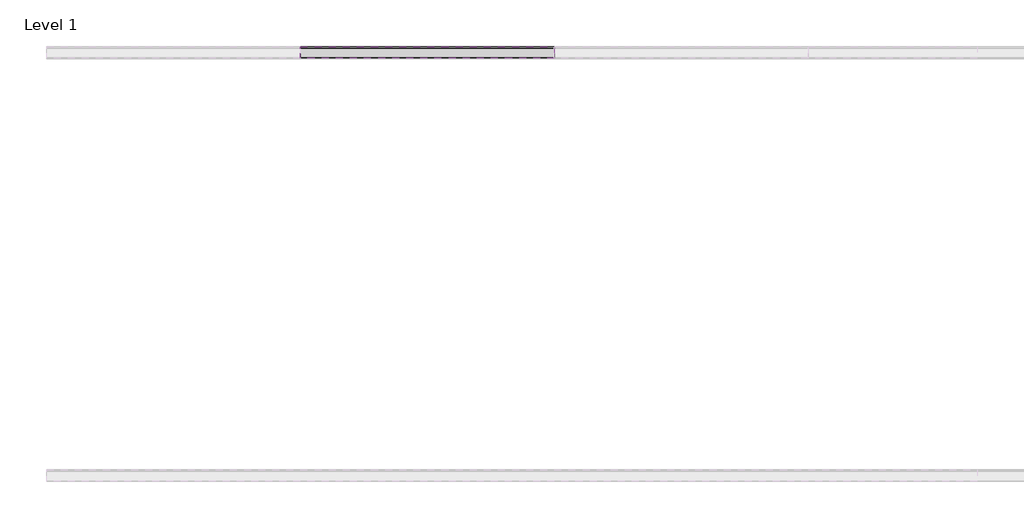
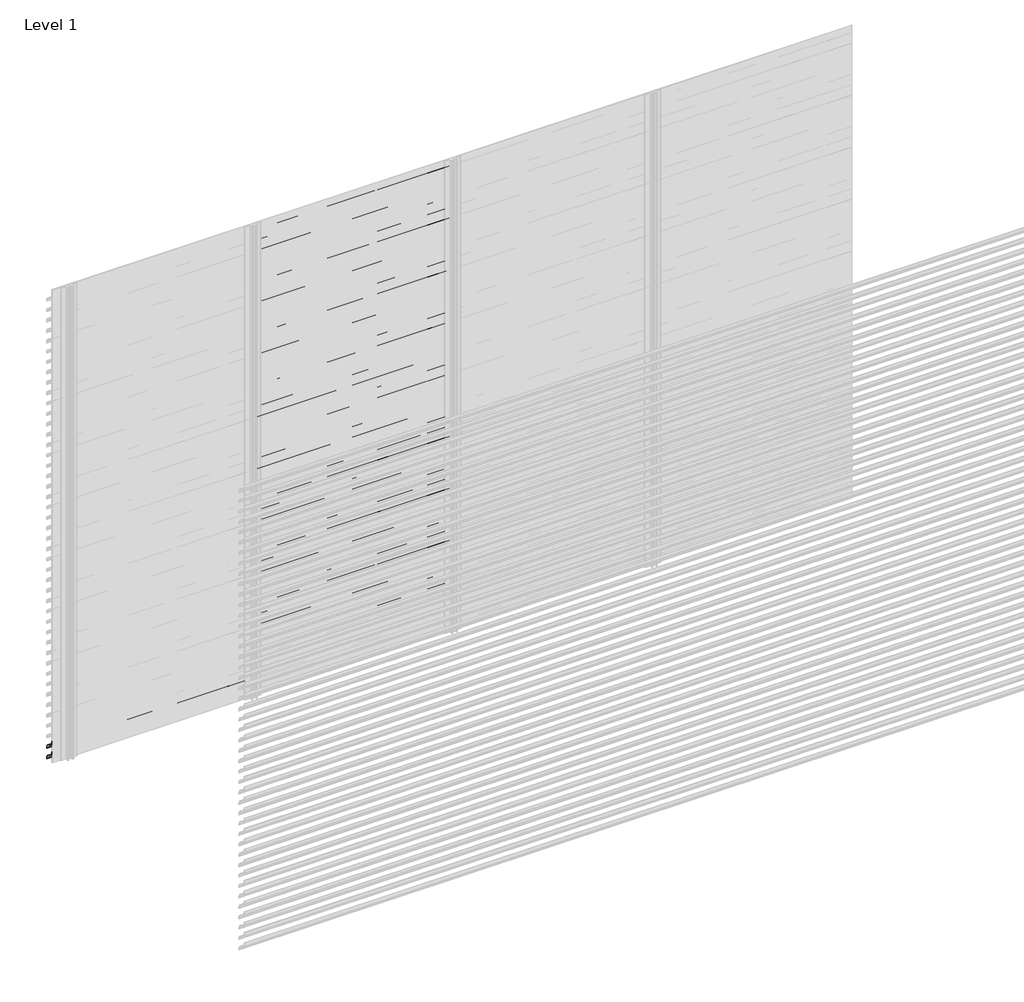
# One storey, part 119 of 540: 43 proxies.
"""IFC4 building model written with IfcOpenShell, lengths in millimetres."""

from ifc_helpers import new_model, si_unit, point, frame, frame_2d, origin, place, context, project, spatial, polyline, circle_curve, trimmed, segment, composite_curve, outline, extrude, element, save

model = new_model("IFC4")

# Units and contexts
model_context = context("Model", 3, world=origin())
ifc_project = project(units=[si_unit("LENGTHUNIT", "METRE", prefix="MILLI")], contexts=[model_context])

# Site, building, storey
site = spatial("IfcSite", under=ifc_project)
building = spatial("IfcBuilding", under=site)
storey = spatial("IfcBuildingStorey", under=building, Name="Level 1", Elevation=0.0)

# Proxies
placement = place(None, origin())
element("IfcBuildingElementProxy", 1, Name="Wall Sweeps", at=placement, inside=storey, context=model_context, shape_type="SweptSolid", body=[
    extrude(outline(composite_curve([segment(trimmed(circle_curve(frame_2d((7017.5825412, 61.7676769)), 26.4944656), [point((7034.5447587, 82.1205608))], [point((7044.0270068, 63.3946208))], False, "CARTESIAN"), True, "CONTINUOUS"), segment(polyline([(7044.0270068, 63.3946208), (7044.0270068, 55.5), (7042.7770068, 56.2216933), (7042.7770068, 61.7676769)]), True, "CONTINUOUS"), segment(trimmed(circle_curve(frame_2d((7017.5825412, 61.7676769)), 25.1944656), [point((7042.7770068, 61.7676769))], [point((7033.7545017, 81.086807))], True, "CARTESIAN"), True, "CONTINUOUS"), segment(polyline([(7033.7545017, 81.086807), (6989.0270068, 112.3158044), (6989.0270068, 132.0), (6990.2770068, 132.0), (6990.2770068, 113.0285629), (7034.5447587, 82.1205608)]), True, "CONTINUOUS")], self_intersect=False)), frame((89466.6208097, 0.0, 0.0), z_axis=(1.0, 0.0, 0.0), x_axis=(0.0, 1.0, 0.0)), (0.0, 0.0, 1.0), 1200.0000002),
])
element("IfcBuildingElementProxy", 2, Name="Wall Sweeps", at=placement, inside=storey, context=model_context, shape_type="SweptSolid", body=[
    extrude(outline(composite_curve([segment(trimmed(circle_curve(frame_2d((7017.5825412, -4.2323231)), 26.4944656), [point((7034.5447587, 16.1205608))], [point((7044.0270068, -2.6053792))], False, "CARTESIAN"), True, "CONTINUOUS"), segment(polyline([(7044.0270068, -2.6053792), (7044.0270068, -10.5), (7042.7770068, -9.7783067), (7042.7770068, -4.2323231)]), True, "CONTINUOUS"), segment(trimmed(circle_curve(frame_2d((7017.5825412, -4.2323231)), 25.1944656), [point((7042.7770068, -4.2323231))], [point((7033.7545017, 15.086807))], True, "CARTESIAN"), True, "CONTINUOUS"), segment(polyline([(7033.7545017, 15.086807), (6989.0270068, 46.3158044), (6989.0270068, 66.0), (6990.2770068, 66.0), (6990.2770068, 47.0285629), (7034.5447587, 16.1205608)]), True, "CONTINUOUS")], self_intersect=False)), frame((89466.6208097, 0.0, 0.0), z_axis=(1.0, 0.0, 0.0), x_axis=(0.0, 1.0, 0.0)), (0.0, 0.0, 1.0), 1200.0000002),
])
element("IfcBuildingElementProxy", 3, Name="Wall Sweeps", at=placement, inside=storey, context=model_context, shape_type="SweptSolid", body=[
    extrude(outline(composite_curve([segment(trimmed(circle_curve(frame_2d((7017.5825412, 2899.7676769)), 26.4944656), [point((7034.5447587, 2920.1205608))], [point((7044.0270068, 2901.3946208))], False, "CARTESIAN"), True, "CONTINUOUS"), segment(polyline([(7044.0270068, 2901.3946208), (7044.0270068, 2893.5), (7042.7770068, 2894.2216933), (7042.7770068, 2899.7676769)]), True, "CONTINUOUS"), segment(trimmed(circle_curve(frame_2d((7017.5825412, 2899.7676769)), 25.1944656), [point((7042.7770068, 2899.7676769))], [point((7033.7545017, 2919.086807))], True, "CARTESIAN"), True, "CONTINUOUS"), segment(polyline([(7033.7545017, 2919.086807), (6989.0270068, 2950.3158044), (6989.0270068, 2970.0), (6990.2770068, 2970.0), (6990.2770068, 2951.0285629), (7034.5447587, 2920.1205608)]), True, "CONTINUOUS")], self_intersect=False)), frame((90666.6208099, 0.0, 0.0), z_axis=(1.0, 0.0, 0.0), x_axis=(0.0, 1.0, 0.0)), (0.0, 0.0, 1.0), 1199.9999999),
])
element("IfcBuildingElementProxy", 4, Name="Wall Sweeps", at=placement, inside=storey, context=model_context, shape_type="SweptSolid", body=[
    extrude(outline(composite_curve([segment(trimmed(circle_curve(frame_2d((7017.5825412, 2833.7676769)), 26.4944656), [point((7034.5447587, 2854.1205608))], [point((7044.0270068, 2835.3946208))], False, "CARTESIAN"), True, "CONTINUOUS"), segment(polyline([(7044.0270068, 2835.3946208), (7044.0270068, 2827.5), (7042.7770068, 2828.2216933), (7042.7770068, 2833.7676769)]), True, "CONTINUOUS"), segment(trimmed(circle_curve(frame_2d((7017.5825412, 2833.7676769)), 25.1944656), [point((7042.7770068, 2833.7676769))], [point((7033.7545017, 2853.086807))], True, "CARTESIAN"), True, "CONTINUOUS"), segment(polyline([(7033.7545017, 2853.086807), (6989.0270068, 2884.3158044), (6989.0270068, 2904.0), (6990.2770068, 2904.0), (6990.2770068, 2885.0285629), (7034.5447587, 2854.1205608)]), True, "CONTINUOUS")], self_intersect=False)), frame((90666.6208099, 0.0, 0.0), z_axis=(1.0, 0.0, 0.0), x_axis=(0.0, 1.0, 0.0)), (0.0, 0.0, 1.0), 1199.9999999),
])
element("IfcBuildingElementProxy", 5, Name="Wall Sweeps", at=placement, inside=storey, context=model_context, shape_type="SweptSolid", body=[
    extrude(outline(composite_curve([segment(trimmed(circle_curve(frame_2d((7017.5825412, 2767.7676769)), 26.4944656), [point((7034.5447587, 2788.1205608))], [point((7044.0270068, 2769.3946208))], False, "CARTESIAN"), True, "CONTINUOUS"), segment(polyline([(7044.0270068, 2769.3946208), (7044.0270068, 2761.5), (7042.7770068, 2762.2216933), (7042.7770068, 2767.7676769)]), True, "CONTINUOUS"), segment(trimmed(circle_curve(frame_2d((7017.5825412, 2767.7676769)), 25.1944656), [point((7042.7770068, 2767.7676769))], [point((7033.7545017, 2787.086807))], True, "CARTESIAN"), True, "CONTINUOUS"), segment(polyline([(7033.7545017, 2787.086807), (6989.0270068, 2818.3158044), (6989.0270068, 2838.0), (6990.2770068, 2838.0), (6990.2770068, 2819.0285629), (7034.5447587, 2788.1205608)]), True, "CONTINUOUS")], self_intersect=False)), frame((90666.6208099, 0.0, 0.0), z_axis=(1.0, 0.0, 0.0), x_axis=(0.0, 1.0, 0.0)), (0.0, 0.0, 1.0), 1199.9999999),
])
element("IfcBuildingElementProxy", 6, Name="Wall Sweeps", at=placement, inside=storey, context=model_context, shape_type="SweptSolid", body=[
    extrude(outline(composite_curve([segment(trimmed(circle_curve(frame_2d((7017.5825412, 2701.7676769)), 26.4944656), [point((7034.5447587, 2722.1205608))], [point((7044.0270068, 2703.3946208))], False, "CARTESIAN"), True, "CONTINUOUS"), segment(polyline([(7044.0270068, 2703.3946208), (7044.0270068, 2695.5), (7042.7770068, 2696.2216933), (7042.7770068, 2701.7676769)]), True, "CONTINUOUS"), segment(trimmed(circle_curve(frame_2d((7017.5825412, 2701.7676769)), 25.1944656), [point((7042.7770068, 2701.7676769))], [point((7033.7545017, 2721.086807))], True, "CARTESIAN"), True, "CONTINUOUS"), segment(polyline([(7033.7545017, 2721.086807), (6989.0270068, 2752.3158044), (6989.0270068, 2772.0), (6990.2770068, 2772.0), (6990.2770068, 2753.0285629), (7034.5447587, 2722.1205608)]), True, "CONTINUOUS")], self_intersect=False)), frame((90666.6208099, 0.0, 0.0), z_axis=(1.0, 0.0, 0.0), x_axis=(0.0, 1.0, 0.0)), (0.0, 0.0, 1.0), 1199.9999999),
])
element("IfcBuildingElementProxy", 7, Name="Wall Sweeps", at=placement, inside=storey, context=model_context, shape_type="SweptSolid", body=[
    extrude(outline(composite_curve([segment(trimmed(circle_curve(frame_2d((7017.5825412, 2635.7676769)), 26.4944656), [point((7034.5447587, 2656.1205608))], [point((7044.0270068, 2637.3946208))], False, "CARTESIAN"), True, "CONTINUOUS"), segment(polyline([(7044.0270068, 2637.3946208), (7044.0270068, 2629.5), (7042.7770068, 2630.2216933), (7042.7770068, 2635.7676769)]), True, "CONTINUOUS"), segment(trimmed(circle_curve(frame_2d((7017.5825412, 2635.7676769)), 25.1944656), [point((7042.7770068, 2635.7676769))], [point((7033.7545017, 2655.086807))], True, "CARTESIAN"), True, "CONTINUOUS"), segment(polyline([(7033.7545017, 2655.086807), (6989.0270068, 2686.3158044), (6989.0270068, 2706.0), (6990.2770068, 2706.0), (6990.2770068, 2687.0285629), (7034.5447587, 2656.1205608)]), True, "CONTINUOUS")], self_intersect=False)), frame((90666.6208099, 0.0, 0.0), z_axis=(1.0, 0.0, 0.0), x_axis=(0.0, 1.0, 0.0)), (0.0, 0.0, 1.0), 1199.9999999),
])
element("IfcBuildingElementProxy", 8, Name="Wall Sweeps", at=placement, inside=storey, context=model_context, shape_type="SweptSolid", body=[
    extrude(outline(composite_curve([segment(trimmed(circle_curve(frame_2d((7017.5825412, 2569.7676769)), 26.4944656), [point((7034.5447587, 2590.1205608))], [point((7044.0270068, 2571.3946208))], False, "CARTESIAN"), True, "CONTINUOUS"), segment(polyline([(7044.0270068, 2571.3946208), (7044.0270068, 2563.5), (7042.7770068, 2564.2216933), (7042.7770068, 2569.7676769)]), True, "CONTINUOUS"), segment(trimmed(circle_curve(frame_2d((7017.5825412, 2569.7676769)), 25.1944656), [point((7042.7770068, 2569.7676769))], [point((7033.7545017, 2589.086807))], True, "CARTESIAN"), True, "CONTINUOUS"), segment(polyline([(7033.7545017, 2589.086807), (6989.0270068, 2620.3158044), (6989.0270068, 2640.0), (6990.2770068, 2640.0), (6990.2770068, 2621.0285629), (7034.5447587, 2590.1205608)]), True, "CONTINUOUS")], self_intersect=False)), frame((90666.6208099, 0.0, 0.0), z_axis=(1.0, 0.0, 0.0), x_axis=(0.0, 1.0, 0.0)), (0.0, 0.0, 1.0), 1199.9999999),
])
element("IfcBuildingElementProxy", 9, Name="Wall Sweeps", at=placement, inside=storey, context=model_context, shape_type="SweptSolid", body=[
    extrude(outline(composite_curve([segment(trimmed(circle_curve(frame_2d((7017.5825412, 2503.7676769)), 26.4944656), [point((7034.5447587, 2524.1205608))], [point((7044.0270068, 2505.3946208))], False, "CARTESIAN"), True, "CONTINUOUS"), segment(polyline([(7044.0270068, 2505.3946208), (7044.0270068, 2497.5), (7042.7770068, 2498.2216933), (7042.7770068, 2503.7676769)]), True, "CONTINUOUS"), segment(trimmed(circle_curve(frame_2d((7017.5825412, 2503.7676769)), 25.1944656), [point((7042.7770068, 2503.7676769))], [point((7033.7545017, 2523.086807))], True, "CARTESIAN"), True, "CONTINUOUS"), segment(polyline([(7033.7545017, 2523.086807), (6989.0270068, 2554.3158044), (6989.0270068, 2574.0), (6990.2770068, 2574.0), (6990.2770068, 2555.0285629), (7034.5447587, 2524.1205608)]), True, "CONTINUOUS")], self_intersect=False)), frame((90666.6208099, 0.0, 0.0), z_axis=(1.0, 0.0, 0.0), x_axis=(0.0, 1.0, 0.0)), (0.0, 0.0, 1.0), 1199.9999999),
])
element("IfcBuildingElementProxy", 10, Name="Wall Sweeps", at=placement, inside=storey, context=model_context, shape_type="SweptSolid", body=[
    extrude(outline(composite_curve([segment(trimmed(circle_curve(frame_2d((7017.5825412, 2437.7676769)), 26.4944656), [point((7034.5447587, 2458.1205608))], [point((7044.0270068, 2439.3946208))], False, "CARTESIAN"), True, "CONTINUOUS"), segment(polyline([(7044.0270068, 2439.3946208), (7044.0270068, 2431.5), (7042.7770068, 2432.2216933), (7042.7770068, 2437.7676769)]), True, "CONTINUOUS"), segment(trimmed(circle_curve(frame_2d((7017.5825412, 2437.7676769)), 25.1944656), [point((7042.7770068, 2437.7676769))], [point((7033.7545017, 2457.086807))], True, "CARTESIAN"), True, "CONTINUOUS"), segment(polyline([(7033.7545017, 2457.086807), (6989.0270068, 2488.3158044), (6989.0270068, 2508.0), (6990.2770068, 2508.0), (6990.2770068, 2489.0285629), (7034.5447587, 2458.1205608)]), True, "CONTINUOUS")], self_intersect=False)), frame((90666.6208099, 0.0, 0.0), z_axis=(1.0, 0.0, 0.0), x_axis=(0.0, 1.0, 0.0)), (0.0, 0.0, 1.0), 1199.9999999),
])
element("IfcBuildingElementProxy", 11, Name="Wall Sweeps", at=placement, inside=storey, context=model_context, shape_type="SweptSolid", body=[
    extrude(outline(composite_curve([segment(trimmed(circle_curve(frame_2d((7017.5825412, 2371.7676769)), 26.4944656), [point((7034.5447587, 2392.1205608))], [point((7044.0270068, 2373.3946208))], False, "CARTESIAN"), True, "CONTINUOUS"), segment(polyline([(7044.0270068, 2373.3946208), (7044.0270068, 2365.5), (7042.7770068, 2366.2216933), (7042.7770068, 2371.7676769)]), True, "CONTINUOUS"), segment(trimmed(circle_curve(frame_2d((7017.5825412, 2371.7676769)), 25.1944656), [point((7042.7770068, 2371.7676769))], [point((7033.7545017, 2391.086807))], True, "CARTESIAN"), True, "CONTINUOUS"), segment(polyline([(7033.7545017, 2391.086807), (6989.0270068, 2422.3158044), (6989.0270068, 2442.0), (6990.2770068, 2442.0), (6990.2770068, 2423.0285629), (7034.5447587, 2392.1205608)]), True, "CONTINUOUS")], self_intersect=False)), frame((90666.6208099, 0.0, 0.0), z_axis=(1.0, 0.0, 0.0), x_axis=(0.0, 1.0, 0.0)), (0.0, 0.0, 1.0), 1199.9999999),
])
element("IfcBuildingElementProxy", 12, Name="Wall Sweeps", at=placement, inside=storey, context=model_context, shape_type="SweptSolid", body=[
    extrude(outline(composite_curve([segment(trimmed(circle_curve(frame_2d((7017.5825412, 2305.7676769)), 26.4944656), [point((7034.5447587, 2326.1205608))], [point((7044.0270068, 2307.3946208))], False, "CARTESIAN"), True, "CONTINUOUS"), segment(polyline([(7044.0270068, 2307.3946208), (7044.0270068, 2299.5), (7042.7770068, 2300.2216933), (7042.7770068, 2305.7676769)]), True, "CONTINUOUS"), segment(trimmed(circle_curve(frame_2d((7017.5825412, 2305.7676769)), 25.1944656), [point((7042.7770068, 2305.7676769))], [point((7033.7545017, 2325.086807))], True, "CARTESIAN"), True, "CONTINUOUS"), segment(polyline([(7033.7545017, 2325.086807), (6989.0270068, 2356.3158044), (6989.0270068, 2376.0), (6990.2770068, 2376.0), (6990.2770068, 2357.0285629), (7034.5447587, 2326.1205608)]), True, "CONTINUOUS")], self_intersect=False)), frame((90666.6208099, 0.0, 0.0), z_axis=(1.0, 0.0, 0.0), x_axis=(0.0, 1.0, 0.0)), (0.0, 0.0, 1.0), 1199.9999999),
])
element("IfcBuildingElementProxy", 13, Name="Wall Sweeps", at=placement, inside=storey, context=model_context, shape_type="SweptSolid", body=[
    extrude(outline(composite_curve([segment(trimmed(circle_curve(frame_2d((7017.5825412, 2239.7676769)), 26.4944656), [point((7034.5447587, 2260.1205608))], [point((7044.0270068, 2241.3946208))], False, "CARTESIAN"), True, "CONTINUOUS"), segment(polyline([(7044.0270068, 2241.3946208), (7044.0270068, 2233.5), (7042.7770068, 2234.2216933), (7042.7770068, 2239.7676769)]), True, "CONTINUOUS"), segment(trimmed(circle_curve(frame_2d((7017.5825412, 2239.7676769)), 25.1944656), [point((7042.7770068, 2239.7676769))], [point((7033.7545017, 2259.086807))], True, "CARTESIAN"), True, "CONTINUOUS"), segment(polyline([(7033.7545017, 2259.086807), (6989.0270068, 2290.3158044), (6989.0270068, 2310.0), (6990.2770068, 2310.0), (6990.2770068, 2291.0285629), (7034.5447587, 2260.1205608)]), True, "CONTINUOUS")], self_intersect=False)), frame((90666.6208099, 0.0, 0.0), z_axis=(1.0, 0.0, 0.0), x_axis=(0.0, 1.0, 0.0)), (0.0, 0.0, 1.0), 1199.9999999),
])
element("IfcBuildingElementProxy", 14, Name="Wall Sweeps", at=placement, inside=storey, context=model_context, shape_type="SweptSolid", body=[
    extrude(outline(composite_curve([segment(trimmed(circle_curve(frame_2d((7017.5825412, 2173.7676769)), 26.4944656), [point((7034.5447587, 2194.1205608))], [point((7044.0270068, 2175.3946208))], False, "CARTESIAN"), True, "CONTINUOUS"), segment(polyline([(7044.0270068, 2175.3946208), (7044.0270068, 2167.5), (7042.7770068, 2168.2216933), (7042.7770068, 2173.7676769)]), True, "CONTINUOUS"), segment(trimmed(circle_curve(frame_2d((7017.5825412, 2173.7676769)), 25.1944656), [point((7042.7770068, 2173.7676769))], [point((7033.7545017, 2193.086807))], True, "CARTESIAN"), True, "CONTINUOUS"), segment(polyline([(7033.7545017, 2193.086807), (6989.0270068, 2224.3158044), (6989.0270068, 2244.0), (6990.2770068, 2244.0), (6990.2770068, 2225.0285629), (7034.5447587, 2194.1205608)]), True, "CONTINUOUS")], self_intersect=False)), frame((90666.6208099, 0.0, 0.0), z_axis=(1.0, 0.0, 0.0), x_axis=(0.0, 1.0, 0.0)), (0.0, 0.0, 1.0), 1199.9999999),
])
element("IfcBuildingElementProxy", 15, Name="Wall Sweeps", at=placement, inside=storey, context=model_context, shape_type="SweptSolid", body=[
    extrude(outline(composite_curve([segment(trimmed(circle_curve(frame_2d((7017.5825412, 2107.7676769)), 26.4944656), [point((7034.5447587, 2128.1205608))], [point((7044.0270068, 2109.3946208))], False, "CARTESIAN"), True, "CONTINUOUS"), segment(polyline([(7044.0270068, 2109.3946208), (7044.0270068, 2101.5), (7042.7770068, 2102.2216933), (7042.7770068, 2107.7676769)]), True, "CONTINUOUS"), segment(trimmed(circle_curve(frame_2d((7017.5825412, 2107.7676769)), 25.1944656), [point((7042.7770068, 2107.7676769))], [point((7033.7545017, 2127.086807))], True, "CARTESIAN"), True, "CONTINUOUS"), segment(polyline([(7033.7545017, 2127.086807), (6989.0270068, 2158.3158044), (6989.0270068, 2178.0), (6990.2770068, 2178.0), (6990.2770068, 2159.0285629), (7034.5447587, 2128.1205608)]), True, "CONTINUOUS")], self_intersect=False)), frame((90666.6208099, 0.0, 0.0), z_axis=(1.0, 0.0, 0.0), x_axis=(0.0, 1.0, 0.0)), (0.0, 0.0, 1.0), 1199.9999999),
])
element("IfcBuildingElementProxy", 16, Name="Wall Sweeps", at=placement, inside=storey, context=model_context, shape_type="SweptSolid", body=[
    extrude(outline(composite_curve([segment(trimmed(circle_curve(frame_2d((7017.5825412, 2041.7676769)), 26.4944656), [point((7034.5447587, 2062.1205608))], [point((7044.0270068, 2043.3946208))], False, "CARTESIAN"), True, "CONTINUOUS"), segment(polyline([(7044.0270068, 2043.3946208), (7044.0270068, 2035.5), (7042.7770068, 2036.2216933), (7042.7770068, 2041.7676769)]), True, "CONTINUOUS"), segment(trimmed(circle_curve(frame_2d((7017.5825412, 2041.7676769)), 25.1944656), [point((7042.7770068, 2041.7676769))], [point((7033.7545017, 2061.086807))], True, "CARTESIAN"), True, "CONTINUOUS"), segment(polyline([(7033.7545017, 2061.086807), (6989.0270068, 2092.3158044), (6989.0270068, 2112.0), (6990.2770068, 2112.0), (6990.2770068, 2093.0285629), (7034.5447587, 2062.1205608)]), True, "CONTINUOUS")], self_intersect=False)), frame((90666.6208099, 0.0, 0.0), z_axis=(1.0, 0.0, 0.0), x_axis=(0.0, 1.0, 0.0)), (0.0, 0.0, 1.0), 1199.9999999),
])
element("IfcBuildingElementProxy", 17, Name="Wall Sweeps", at=placement, inside=storey, context=model_context, shape_type="SweptSolid", body=[
    extrude(outline(composite_curve([segment(trimmed(circle_curve(frame_2d((7017.5825412, 1975.7676769)), 26.4944656), [point((7034.5447587, 1996.1205608))], [point((7044.0270068, 1977.3946208))], False, "CARTESIAN"), True, "CONTINUOUS"), segment(polyline([(7044.0270068, 1977.3946208), (7044.0270068, 1969.5), (7042.7770068, 1970.2216933), (7042.7770068, 1975.7676769)]), True, "CONTINUOUS"), segment(trimmed(circle_curve(frame_2d((7017.5825412, 1975.7676769)), 25.1944656), [point((7042.7770068, 1975.7676769))], [point((7033.7545017, 1995.086807))], True, "CARTESIAN"), True, "CONTINUOUS"), segment(polyline([(7033.7545017, 1995.086807), (6989.0270068, 2026.3158044), (6989.0270068, 2046.0), (6990.2770068, 2046.0), (6990.2770068, 2027.0285629), (7034.5447587, 1996.1205608)]), True, "CONTINUOUS")], self_intersect=False)), frame((90666.6208099, 0.0, 0.0), z_axis=(1.0, 0.0, 0.0), x_axis=(0.0, 1.0, 0.0)), (0.0, 0.0, 1.0), 1199.9999999),
])
element("IfcBuildingElementProxy", 18, Name="Wall Sweeps", at=placement, inside=storey, context=model_context, shape_type="SweptSolid", body=[
    extrude(outline(composite_curve([segment(trimmed(circle_curve(frame_2d((7017.5825412, 1909.7676769)), 26.4944656), [point((7034.5447587, 1930.1205608))], [point((7044.0270068, 1911.3946208))], False, "CARTESIAN"), True, "CONTINUOUS"), segment(polyline([(7044.0270068, 1911.3946208), (7044.0270068, 1903.5), (7042.7770068, 1904.2216933), (7042.7770068, 1909.7676769)]), True, "CONTINUOUS"), segment(trimmed(circle_curve(frame_2d((7017.5825412, 1909.7676769)), 25.1944656), [point((7042.7770068, 1909.7676769))], [point((7033.7545017, 1929.086807))], True, "CARTESIAN"), True, "CONTINUOUS"), segment(polyline([(7033.7545017, 1929.086807), (6989.0270068, 1960.3158044), (6989.0270068, 1980.0), (6990.2770068, 1980.0), (6990.2770068, 1961.0285629), (7034.5447587, 1930.1205608)]), True, "CONTINUOUS")], self_intersect=False)), frame((90666.6208099, 0.0, 0.0), z_axis=(1.0, 0.0, 0.0), x_axis=(0.0, 1.0, 0.0)), (0.0, 0.0, 1.0), 1199.9999999),
])
element("IfcBuildingElementProxy", 19, Name="Wall Sweeps", at=placement, inside=storey, context=model_context, shape_type="SweptSolid", body=[
    extrude(outline(composite_curve([segment(trimmed(circle_curve(frame_2d((7017.5825412, 1843.7676769)), 26.4944656), [point((7034.5447587, 1864.1205608))], [point((7044.0270068, 1845.3946208))], False, "CARTESIAN"), True, "CONTINUOUS"), segment(polyline([(7044.0270068, 1845.3946208), (7044.0270068, 1837.5), (7042.7770068, 1838.2216933), (7042.7770068, 1843.7676769)]), True, "CONTINUOUS"), segment(trimmed(circle_curve(frame_2d((7017.5825412, 1843.7676769)), 25.1944656), [point((7042.7770068, 1843.7676769))], [point((7033.7545017, 1863.086807))], True, "CARTESIAN"), True, "CONTINUOUS"), segment(polyline([(7033.7545017, 1863.086807), (6989.0270068, 1894.3158044), (6989.0270068, 1914.0), (6990.2770068, 1914.0), (6990.2770068, 1895.0285629), (7034.5447587, 1864.1205608)]), True, "CONTINUOUS")], self_intersect=False)), frame((90666.6208099, 0.0, 0.0), z_axis=(1.0, 0.0, 0.0), x_axis=(0.0, 1.0, 0.0)), (0.0, 0.0, 1.0), 1199.9999999),
])
element("IfcBuildingElementProxy", 20, Name="Wall Sweeps", at=placement, inside=storey, context=model_context, shape_type="SweptSolid", body=[
    extrude(outline(composite_curve([segment(trimmed(circle_curve(frame_2d((7017.5825412, 1777.7676769)), 26.4944656), [point((7034.5447587, 1798.1205608))], [point((7044.0270068, 1779.3946208))], False, "CARTESIAN"), True, "CONTINUOUS"), segment(polyline([(7044.0270068, 1779.3946208), (7044.0270068, 1771.5), (7042.7770068, 1772.2216933), (7042.7770068, 1777.7676769)]), True, "CONTINUOUS"), segment(trimmed(circle_curve(frame_2d((7017.5825412, 1777.7676769)), 25.1944656), [point((7042.7770068, 1777.7676769))], [point((7033.7545017, 1797.086807))], True, "CARTESIAN"), True, "CONTINUOUS"), segment(polyline([(7033.7545017, 1797.086807), (6989.0270068, 1828.3158044), (6989.0270068, 1848.0), (6990.2770068, 1848.0), (6990.2770068, 1829.0285629), (7034.5447587, 1798.1205608)]), True, "CONTINUOUS")], self_intersect=False)), frame((90666.6208099, 0.0, 0.0), z_axis=(1.0, 0.0, 0.0), x_axis=(0.0, 1.0, 0.0)), (0.0, 0.0, 1.0), 1199.9999999),
])
element("IfcBuildingElementProxy", 21, Name="Wall Sweeps", at=placement, inside=storey, context=model_context, shape_type="SweptSolid", body=[
    extrude(outline(composite_curve([segment(trimmed(circle_curve(frame_2d((7017.5825412, 1711.7676769)), 26.4944656), [point((7034.5447587, 1732.1205608))], [point((7044.0270068, 1713.3946208))], False, "CARTESIAN"), True, "CONTINUOUS"), segment(polyline([(7044.0270068, 1713.3946208), (7044.0270068, 1705.5), (7042.7770068, 1706.2216933), (7042.7770068, 1711.7676769)]), True, "CONTINUOUS"), segment(trimmed(circle_curve(frame_2d((7017.5825412, 1711.7676769)), 25.1944656), [point((7042.7770068, 1711.7676769))], [point((7033.7545017, 1731.086807))], True, "CARTESIAN"), True, "CONTINUOUS"), segment(polyline([(7033.7545017, 1731.086807), (6989.0270068, 1762.3158044), (6989.0270068, 1782.0), (6990.2770068, 1782.0), (6990.2770068, 1763.0285629), (7034.5447587, 1732.1205608)]), True, "CONTINUOUS")], self_intersect=False)), frame((90666.6208099, 0.0, 0.0), z_axis=(1.0, 0.0, 0.0), x_axis=(0.0, 1.0, 0.0)), (0.0, 0.0, 1.0), 1199.9999999),
])
element("IfcBuildingElementProxy", 22, Name="Wall Sweeps", at=placement, inside=storey, context=model_context, shape_type="SweptSolid", body=[
    extrude(outline(composite_curve([segment(trimmed(circle_curve(frame_2d((7017.5825412, 1645.7676769)), 26.4944656), [point((7034.5447587, 1666.1205608))], [point((7044.0270068, 1647.3946208))], False, "CARTESIAN"), True, "CONTINUOUS"), segment(polyline([(7044.0270068, 1647.3946208), (7044.0270068, 1639.5), (7042.7770068, 1640.2216933), (7042.7770068, 1645.7676769)]), True, "CONTINUOUS"), segment(trimmed(circle_curve(frame_2d((7017.5825412, 1645.7676769)), 25.1944656), [point((7042.7770068, 1645.7676769))], [point((7033.7545017, 1665.086807))], True, "CARTESIAN"), True, "CONTINUOUS"), segment(polyline([(7033.7545017, 1665.086807), (6989.0270068, 1696.3158044), (6989.0270068, 1716.0), (6990.2770068, 1716.0), (6990.2770068, 1697.0285629), (7034.5447587, 1666.1205608)]), True, "CONTINUOUS")], self_intersect=False)), frame((90666.6208099, 0.0, 0.0), z_axis=(1.0, 0.0, 0.0), x_axis=(0.0, 1.0, 0.0)), (0.0, 0.0, 1.0), 1199.9999999),
])
element("IfcBuildingElementProxy", 23, Name="Wall Sweeps", at=placement, inside=storey, context=model_context, shape_type="SweptSolid", body=[
    extrude(outline(composite_curve([segment(trimmed(circle_curve(frame_2d((7017.5825412, 1579.7676769)), 26.4944656), [point((7034.5447587, 1600.1205608))], [point((7044.0270068, 1581.3946208))], False, "CARTESIAN"), True, "CONTINUOUS"), segment(polyline([(7044.0270068, 1581.3946208), (7044.0270068, 1573.5), (7042.7770068, 1574.2216933), (7042.7770068, 1579.7676769)]), True, "CONTINUOUS"), segment(trimmed(circle_curve(frame_2d((7017.5825412, 1579.7676769)), 25.1944656), [point((7042.7770068, 1579.7676769))], [point((7033.7545017, 1599.086807))], True, "CARTESIAN"), True, "CONTINUOUS"), segment(polyline([(7033.7545017, 1599.086807), (6989.0270068, 1630.3158044), (6989.0270068, 1650.0), (6990.2770068, 1650.0), (6990.2770068, 1631.0285629), (7034.5447587, 1600.1205608)]), True, "CONTINUOUS")], self_intersect=False)), frame((90666.6208099, 0.0, 0.0), z_axis=(1.0, 0.0, 0.0), x_axis=(0.0, 1.0, 0.0)), (0.0, 0.0, 1.0), 1199.9999999),
])
element("IfcBuildingElementProxy", 24, Name="Wall Sweeps", at=placement, inside=storey, context=model_context, shape_type="SweptSolid", body=[
    extrude(outline(composite_curve([segment(trimmed(circle_curve(frame_2d((7017.5825412, 1513.7676769)), 26.4944656), [point((7034.5447587, 1534.1205608))], [point((7044.0270068, 1515.3946208))], False, "CARTESIAN"), True, "CONTINUOUS"), segment(polyline([(7044.0270068, 1515.3946208), (7044.0270068, 1507.5), (7042.7770068, 1508.2216933), (7042.7770068, 1513.7676769)]), True, "CONTINUOUS"), segment(trimmed(circle_curve(frame_2d((7017.5825412, 1513.7676769)), 25.1944656), [point((7042.7770068, 1513.7676769))], [point((7033.7545017, 1533.086807))], True, "CARTESIAN"), True, "CONTINUOUS"), segment(polyline([(7033.7545017, 1533.086807), (6989.0270068, 1564.3158044), (6989.0270068, 1584.0), (6990.2770068, 1584.0), (6990.2770068, 1565.0285629), (7034.5447587, 1534.1205608)]), True, "CONTINUOUS")], self_intersect=False)), frame((90666.6208099, 0.0, 0.0), z_axis=(1.0, 0.0, 0.0), x_axis=(0.0, 1.0, 0.0)), (0.0, 0.0, 1.0), 1199.9999999),
])
element("IfcBuildingElementProxy", 25, Name="Wall Sweeps", at=placement, inside=storey, context=model_context, shape_type="SweptSolid", body=[
    extrude(outline(composite_curve([segment(trimmed(circle_curve(frame_2d((7017.5825412, 1447.7676769)), 26.4944656), [point((7034.5447587, 1468.1205608))], [point((7044.0270068, 1449.3946208))], False, "CARTESIAN"), True, "CONTINUOUS"), segment(polyline([(7044.0270068, 1449.3946208), (7044.0270068, 1441.5), (7042.7770068, 1442.2216933), (7042.7770068, 1447.7676769)]), True, "CONTINUOUS"), segment(trimmed(circle_curve(frame_2d((7017.5825412, 1447.7676769)), 25.1944656), [point((7042.7770068, 1447.7676769))], [point((7033.7545017, 1467.086807))], True, "CARTESIAN"), True, "CONTINUOUS"), segment(polyline([(7033.7545017, 1467.086807), (6989.0270068, 1498.3158044), (6989.0270068, 1518.0), (6990.2770068, 1518.0), (6990.2770068, 1499.0285629), (7034.5447587, 1468.1205608)]), True, "CONTINUOUS")], self_intersect=False)), frame((90666.6208099, 0.0, 0.0), z_axis=(1.0, 0.0, 0.0), x_axis=(0.0, 1.0, 0.0)), (0.0, 0.0, 1.0), 1199.9999999),
])
element("IfcBuildingElementProxy", 26, Name="Wall Sweeps", at=placement, inside=storey, context=model_context, shape_type="SweptSolid", body=[
    extrude(outline(composite_curve([segment(trimmed(circle_curve(frame_2d((7017.5825412, 1381.7676769)), 26.4944656), [point((7034.5447587, 1402.1205608))], [point((7044.0270068, 1383.3946208))], False, "CARTESIAN"), True, "CONTINUOUS"), segment(polyline([(7044.0270068, 1383.3946208), (7044.0270068, 1375.5), (7042.7770068, 1376.2216933), (7042.7770068, 1381.7676769)]), True, "CONTINUOUS"), segment(trimmed(circle_curve(frame_2d((7017.5825412, 1381.7676769)), 25.1944656), [point((7042.7770068, 1381.7676769))], [point((7033.7545017, 1401.086807))], True, "CARTESIAN"), True, "CONTINUOUS"), segment(polyline([(7033.7545017, 1401.086807), (6989.0270068, 1432.3158044), (6989.0270068, 1452.0), (6990.2770068, 1452.0), (6990.2770068, 1433.0285629), (7034.5447587, 1402.1205608)]), True, "CONTINUOUS")], self_intersect=False)), frame((90666.6208099, 0.0, 0.0), z_axis=(1.0, 0.0, 0.0), x_axis=(0.0, 1.0, 0.0)), (0.0, 0.0, 1.0), 1199.9999999),
])
element("IfcBuildingElementProxy", 27, Name="Wall Sweeps", at=placement, inside=storey, context=model_context, shape_type="SweptSolid", body=[
    extrude(outline(composite_curve([segment(trimmed(circle_curve(frame_2d((7017.5825412, 1315.7676769)), 26.4944656), [point((7034.5447587, 1336.1205608))], [point((7044.0270068, 1317.3946208))], False, "CARTESIAN"), True, "CONTINUOUS"), segment(polyline([(7044.0270068, 1317.3946208), (7044.0270068, 1309.5), (7042.7770068, 1310.2216933), (7042.7770068, 1315.7676769)]), True, "CONTINUOUS"), segment(trimmed(circle_curve(frame_2d((7017.5825412, 1315.7676769)), 25.1944656), [point((7042.7770068, 1315.7676769))], [point((7033.7545017, 1335.086807))], True, "CARTESIAN"), True, "CONTINUOUS"), segment(polyline([(7033.7545017, 1335.086807), (6989.0270068, 1366.3158044), (6989.0270068, 1386.0), (6990.2770068, 1386.0), (6990.2770068, 1367.0285629), (7034.5447587, 1336.1205608)]), True, "CONTINUOUS")], self_intersect=False)), frame((90666.6208099, 0.0, 0.0), z_axis=(1.0, 0.0, 0.0), x_axis=(0.0, 1.0, 0.0)), (0.0, 0.0, 1.0), 1199.9999999),
])
element("IfcBuildingElementProxy", 28, Name="Wall Sweeps", at=placement, inside=storey, context=model_context, shape_type="SweptSolid", body=[
    extrude(outline(composite_curve([segment(trimmed(circle_curve(frame_2d((7017.5825412, 1249.7676769)), 26.4944656), [point((7034.5447587, 1270.1205608))], [point((7044.0270068, 1251.3946208))], False, "CARTESIAN"), True, "CONTINUOUS"), segment(polyline([(7044.0270068, 1251.3946208), (7044.0270068, 1243.5), (7042.7770068, 1244.2216933), (7042.7770068, 1249.7676769)]), True, "CONTINUOUS"), segment(trimmed(circle_curve(frame_2d((7017.5825412, 1249.7676769)), 25.1944656), [point((7042.7770068, 1249.7676769))], [point((7033.7545017, 1269.086807))], True, "CARTESIAN"), True, "CONTINUOUS"), segment(polyline([(7033.7545017, 1269.086807), (6989.0270068, 1300.3158044), (6989.0270068, 1320.0), (6990.2770068, 1320.0), (6990.2770068, 1301.0285629), (7034.5447587, 1270.1205608)]), True, "CONTINUOUS")], self_intersect=False)), frame((90666.6208099, 0.0, 0.0), z_axis=(1.0, 0.0, 0.0), x_axis=(0.0, 1.0, 0.0)), (0.0, 0.0, 1.0), 1199.9999999),
])
element("IfcBuildingElementProxy", 29, Name="Wall Sweeps", at=placement, inside=storey, context=model_context, shape_type="SweptSolid", body=[
    extrude(outline(composite_curve([segment(trimmed(circle_curve(frame_2d((7017.5825412, 1183.7676769)), 26.4944656), [point((7034.5447587, 1204.1205608))], [point((7044.0270068, 1185.3946208))], False, "CARTESIAN"), True, "CONTINUOUS"), segment(polyline([(7044.0270068, 1185.3946208), (7044.0270068, 1177.5), (7042.7770068, 1178.2216933), (7042.7770068, 1183.7676769)]), True, "CONTINUOUS"), segment(trimmed(circle_curve(frame_2d((7017.5825412, 1183.7676769)), 25.1944656), [point((7042.7770068, 1183.7676769))], [point((7033.7545017, 1203.086807))], True, "CARTESIAN"), True, "CONTINUOUS"), segment(polyline([(7033.7545017, 1203.086807), (6989.0270068, 1234.3158044), (6989.0270068, 1254.0), (6990.2770068, 1254.0), (6990.2770068, 1235.0285629), (7034.5447587, 1204.1205608)]), True, "CONTINUOUS")], self_intersect=False)), frame((90666.6208099, 0.0, 0.0), z_axis=(1.0, 0.0, 0.0), x_axis=(0.0, 1.0, 0.0)), (0.0, 0.0, 1.0), 1199.9999999),
])
element("IfcBuildingElementProxy", 30, Name="Wall Sweeps", at=placement, inside=storey, context=model_context, shape_type="SweptSolid", body=[
    extrude(outline(composite_curve([segment(trimmed(circle_curve(frame_2d((7017.5825412, 1117.7676769)), 26.4944656), [point((7034.5447587, 1138.1205608))], [point((7044.0270068, 1119.3946208))], False, "CARTESIAN"), True, "CONTINUOUS"), segment(polyline([(7044.0270068, 1119.3946208), (7044.0270068, 1111.5), (7042.7770068, 1112.2216933), (7042.7770068, 1117.7676769)]), True, "CONTINUOUS"), segment(trimmed(circle_curve(frame_2d((7017.5825412, 1117.7676769)), 25.1944656), [point((7042.7770068, 1117.7676769))], [point((7033.7545017, 1137.086807))], True, "CARTESIAN"), True, "CONTINUOUS"), segment(polyline([(7033.7545017, 1137.086807), (6989.0270068, 1168.3158044), (6989.0270068, 1188.0), (6990.2770068, 1188.0), (6990.2770068, 1169.0285629), (7034.5447587, 1138.1205608)]), True, "CONTINUOUS")], self_intersect=False)), frame((90666.6208099, 0.0, 0.0), z_axis=(1.0, 0.0, 0.0), x_axis=(0.0, 1.0, 0.0)), (0.0, 0.0, 1.0), 1199.9999999),
])
element("IfcBuildingElementProxy", 31, Name="Wall Sweeps", at=placement, inside=storey, context=model_context, shape_type="SweptSolid", body=[
    extrude(outline(composite_curve([segment(trimmed(circle_curve(frame_2d((7017.5825412, 1051.7676769)), 26.4944656), [point((7034.5447587, 1072.1205608))], [point((7044.0270068, 1053.3946208))], False, "CARTESIAN"), True, "CONTINUOUS"), segment(polyline([(7044.0270068, 1053.3946208), (7044.0270068, 1045.5), (7042.7770068, 1046.2216933), (7042.7770068, 1051.7676769)]), True, "CONTINUOUS"), segment(trimmed(circle_curve(frame_2d((7017.5825412, 1051.7676769)), 25.1944656), [point((7042.7770068, 1051.7676769))], [point((7033.7545017, 1071.086807))], True, "CARTESIAN"), True, "CONTINUOUS"), segment(polyline([(7033.7545017, 1071.086807), (6989.0270068, 1102.3158044), (6989.0270068, 1122.0), (6990.2770068, 1122.0), (6990.2770068, 1103.0285629), (7034.5447587, 1072.1205608)]), True, "CONTINUOUS")], self_intersect=False)), frame((90666.6208099, 0.0, 0.0), z_axis=(1.0, 0.0, 0.0), x_axis=(0.0, 1.0, 0.0)), (0.0, 0.0, 1.0), 1199.9999999),
])
element("IfcBuildingElementProxy", 32, Name="Wall Sweeps", at=placement, inside=storey, context=model_context, shape_type="SweptSolid", body=[
    extrude(outline(composite_curve([segment(trimmed(circle_curve(frame_2d((7017.5825412, 985.7676769)), 26.4944656), [point((7034.5447587, 1006.1205608))], [point((7044.0270068, 987.3946208))], False, "CARTESIAN"), True, "CONTINUOUS"), segment(polyline([(7044.0270068, 987.3946208), (7044.0270068, 979.5), (7042.7770068, 980.2216933), (7042.7770068, 985.7676769)]), True, "CONTINUOUS"), segment(trimmed(circle_curve(frame_2d((7017.5825412, 985.7676769)), 25.1944656), [point((7042.7770068, 985.7676769))], [point((7033.7545017, 1005.086807))], True, "CARTESIAN"), True, "CONTINUOUS"), segment(polyline([(7033.7545017, 1005.086807), (6989.0270068, 1036.3158044), (6989.0270068, 1056.0), (6990.2770068, 1056.0), (6990.2770068, 1037.0285629), (7034.5447587, 1006.1205608)]), True, "CONTINUOUS")], self_intersect=False)), frame((90666.6208099, 0.0, 0.0), z_axis=(1.0, 0.0, 0.0), x_axis=(0.0, 1.0, 0.0)), (0.0, 0.0, 1.0), 1199.9999999),
])
element("IfcBuildingElementProxy", 33, Name="Wall Sweeps", at=placement, inside=storey, context=model_context, shape_type="SweptSolid", body=[
    extrude(outline(composite_curve([segment(trimmed(circle_curve(frame_2d((7017.5825412, 919.7676769)), 26.4944656), [point((7034.5447587, 940.1205608))], [point((7044.0270068, 921.3946208))], False, "CARTESIAN"), True, "CONTINUOUS"), segment(polyline([(7044.0270068, 921.3946208), (7044.0270068, 913.5), (7042.7770068, 914.2216933), (7042.7770068, 919.7676769)]), True, "CONTINUOUS"), segment(trimmed(circle_curve(frame_2d((7017.5825412, 919.7676769)), 25.1944656), [point((7042.7770068, 919.7676769))], [point((7033.7545017, 939.086807))], True, "CARTESIAN"), True, "CONTINUOUS"), segment(polyline([(7033.7545017, 939.086807), (6989.0270068, 970.3158044), (6989.0270068, 990.0), (6990.2770068, 990.0), (6990.2770068, 971.0285629), (7034.5447587, 940.1205608)]), True, "CONTINUOUS")], self_intersect=False)), frame((90666.6208099, 0.0, 0.0), z_axis=(1.0, 0.0, 0.0), x_axis=(0.0, 1.0, 0.0)), (0.0, 0.0, 1.0), 1199.9999999),
])
element("IfcBuildingElementProxy", 34, Name="Wall Sweeps", at=placement, inside=storey, context=model_context, shape_type="SweptSolid", body=[
    extrude(outline(composite_curve([segment(trimmed(circle_curve(frame_2d((7017.5825412, 853.7676769)), 26.4944656), [point((7034.5447587, 874.1205608))], [point((7044.0270068, 855.3946208))], False, "CARTESIAN"), True, "CONTINUOUS"), segment(polyline([(7044.0270068, 855.3946208), (7044.0270068, 847.5), (7042.7770068, 848.2216933), (7042.7770068, 853.7676769)]), True, "CONTINUOUS"), segment(trimmed(circle_curve(frame_2d((7017.5825412, 853.7676769)), 25.1944656), [point((7042.7770068, 853.7676769))], [point((7033.7545017, 873.086807))], True, "CARTESIAN"), True, "CONTINUOUS"), segment(polyline([(7033.7545017, 873.086807), (6989.0270068, 904.3158044), (6989.0270068, 924.0), (6990.2770068, 924.0), (6990.2770068, 905.0285629), (7034.5447587, 874.1205608)]), True, "CONTINUOUS")], self_intersect=False)), frame((90666.6208099, 0.0, 0.0), z_axis=(1.0, 0.0, 0.0), x_axis=(0.0, 1.0, 0.0)), (0.0, 0.0, 1.0), 1199.9999999),
])
element("IfcBuildingElementProxy", 35, Name="Wall Sweeps", at=placement, inside=storey, context=model_context, shape_type="SweptSolid", body=[
    extrude(outline(composite_curve([segment(trimmed(circle_curve(frame_2d((7017.5825412, 787.7676769)), 26.4944656), [point((7034.5447587, 808.1205608))], [point((7044.0270068, 789.3946208))], False, "CARTESIAN"), True, "CONTINUOUS"), segment(polyline([(7044.0270068, 789.3946208), (7044.0270068, 781.5), (7042.7770068, 782.2216933), (7042.7770068, 787.7676769)]), True, "CONTINUOUS"), segment(trimmed(circle_curve(frame_2d((7017.5825412, 787.7676769)), 25.1944656), [point((7042.7770068, 787.7676769))], [point((7033.7545017, 807.086807))], True, "CARTESIAN"), True, "CONTINUOUS"), segment(polyline([(7033.7545017, 807.086807), (6989.0270068, 838.3158044), (6989.0270068, 858.0), (6990.2770068, 858.0), (6990.2770068, 839.0285629), (7034.5447587, 808.1205608)]), True, "CONTINUOUS")], self_intersect=False)), frame((90666.6208099, 0.0, 0.0), z_axis=(1.0, 0.0, 0.0), x_axis=(0.0, 1.0, 0.0)), (0.0, 0.0, 1.0), 1199.9999999),
])
element("IfcBuildingElementProxy", 36, Name="Wall Sweeps", at=placement, inside=storey, context=model_context, shape_type="SweptSolid", body=[
    extrude(outline(composite_curve([segment(trimmed(circle_curve(frame_2d((7017.5825412, 721.7676769)), 26.4944656), [point((7034.5447587, 742.1205608))], [point((7044.0270068, 723.3946208))], False, "CARTESIAN"), True, "CONTINUOUS"), segment(polyline([(7044.0270068, 723.3946208), (7044.0270068, 715.5), (7042.7770068, 716.2216933), (7042.7770068, 721.7676769)]), True, "CONTINUOUS"), segment(trimmed(circle_curve(frame_2d((7017.5825412, 721.7676769)), 25.1944656), [point((7042.7770068, 721.7676769))], [point((7033.7545017, 741.086807))], True, "CARTESIAN"), True, "CONTINUOUS"), segment(polyline([(7033.7545017, 741.086807), (6989.0270068, 772.3158044), (6989.0270068, 792.0), (6990.2770068, 792.0), (6990.2770068, 773.0285629), (7034.5447587, 742.1205608)]), True, "CONTINUOUS")], self_intersect=False)), frame((90666.6208099, 0.0, 0.0), z_axis=(1.0, 0.0, 0.0), x_axis=(0.0, 1.0, 0.0)), (0.0, 0.0, 1.0), 1199.9999999),
])
element("IfcBuildingElementProxy", 37, Name="Wall Sweeps", at=placement, inside=storey, context=model_context, shape_type="SweptSolid", body=[
    extrude(outline(composite_curve([segment(trimmed(circle_curve(frame_2d((7017.5825412, 655.7676769)), 26.4944656), [point((7034.5447587, 676.1205608))], [point((7044.0270068, 657.3946208))], False, "CARTESIAN"), True, "CONTINUOUS"), segment(polyline([(7044.0270068, 657.3946208), (7044.0270068, 649.5), (7042.7770068, 650.2216933), (7042.7770068, 655.7676769)]), True, "CONTINUOUS"), segment(trimmed(circle_curve(frame_2d((7017.5825412, 655.7676769)), 25.1944656), [point((7042.7770068, 655.7676769))], [point((7033.7545017, 675.086807))], True, "CARTESIAN"), True, "CONTINUOUS"), segment(polyline([(7033.7545017, 675.086807), (6989.0270068, 706.3158044), (6989.0270068, 726.0), (6990.2770068, 726.0), (6990.2770068, 707.0285629), (7034.5447587, 676.1205608)]), True, "CONTINUOUS")], self_intersect=False)), frame((90666.6208099, 0.0, 0.0), z_axis=(1.0, 0.0, 0.0), x_axis=(0.0, 1.0, 0.0)), (0.0, 0.0, 1.0), 1199.9999999),
])
element("IfcBuildingElementProxy", 38, Name="Wall Sweeps", at=placement, inside=storey, context=model_context, shape_type="SweptSolid", body=[
    extrude(outline(composite_curve([segment(trimmed(circle_curve(frame_2d((7017.5825412, 589.7676769)), 26.4944656), [point((7034.5447587, 610.1205608))], [point((7044.0270068, 591.3946208))], False, "CARTESIAN"), True, "CONTINUOUS"), segment(polyline([(7044.0270068, 591.3946208), (7044.0270068, 583.5), (7042.7770068, 584.2216933), (7042.7770068, 589.7676769)]), True, "CONTINUOUS"), segment(trimmed(circle_curve(frame_2d((7017.5825412, 589.7676769)), 25.1944656), [point((7042.7770068, 589.7676769))], [point((7033.7545017, 609.086807))], True, "CARTESIAN"), True, "CONTINUOUS"), segment(polyline([(7033.7545017, 609.086807), (6989.0270068, 640.3158044), (6989.0270068, 660.0), (6990.2770068, 660.0), (6990.2770068, 641.0285629), (7034.5447587, 610.1205608)]), True, "CONTINUOUS")], self_intersect=False)), frame((90666.6208099, 0.0, 0.0), z_axis=(1.0, 0.0, 0.0), x_axis=(0.0, 1.0, 0.0)), (0.0, 0.0, 1.0), 1199.9999999),
])
element("IfcBuildingElementProxy", 39, Name="Wall Sweeps", at=placement, inside=storey, context=model_context, shape_type="SweptSolid", body=[
    extrude(outline(composite_curve([segment(trimmed(circle_curve(frame_2d((7017.5825412, 523.7676769)), 26.4944656), [point((7034.5447587, 544.1205608))], [point((7044.0270068, 525.3946208))], False, "CARTESIAN"), True, "CONTINUOUS"), segment(polyline([(7044.0270068, 525.3946208), (7044.0270068, 517.5), (7042.7770068, 518.2216933), (7042.7770068, 523.7676769)]), True, "CONTINUOUS"), segment(trimmed(circle_curve(frame_2d((7017.5825412, 523.7676769)), 25.1944656), [point((7042.7770068, 523.7676769))], [point((7033.7545017, 543.086807))], True, "CARTESIAN"), True, "CONTINUOUS"), segment(polyline([(7033.7545017, 543.086807), (6989.0270068, 574.3158044), (6989.0270068, 594.0), (6990.2770068, 594.0), (6990.2770068, 575.0285629), (7034.5447587, 544.1205608)]), True, "CONTINUOUS")], self_intersect=False)), frame((90666.6208099, 0.0, 0.0), z_axis=(1.0, 0.0, 0.0), x_axis=(0.0, 1.0, 0.0)), (0.0, 0.0, 1.0), 1199.9999999),
])
element("IfcBuildingElementProxy", 40, Name="Wall Sweeps", at=placement, inside=storey, context=model_context, shape_type="SweptSolid", body=[
    extrude(outline(composite_curve([segment(trimmed(circle_curve(frame_2d((7017.5825412, 457.7676769)), 26.4944656), [point((7034.5447587, 478.1205608))], [point((7044.0270068, 459.3946208))], False, "CARTESIAN"), True, "CONTINUOUS"), segment(polyline([(7044.0270068, 459.3946208), (7044.0270068, 451.5), (7042.7770068, 452.2216933), (7042.7770068, 457.7676769)]), True, "CONTINUOUS"), segment(trimmed(circle_curve(frame_2d((7017.5825412, 457.7676769)), 25.1944656), [point((7042.7770068, 457.7676769))], [point((7033.7545017, 477.086807))], True, "CARTESIAN"), True, "CONTINUOUS"), segment(polyline([(7033.7545017, 477.086807), (6989.0270068, 508.3158044), (6989.0270068, 528.0), (6990.2770068, 528.0), (6990.2770068, 509.0285629), (7034.5447587, 478.1205608)]), True, "CONTINUOUS")], self_intersect=False)), frame((90666.6208099, 0.0, 0.0), z_axis=(1.0, 0.0, 0.0), x_axis=(0.0, 1.0, 0.0)), (0.0, 0.0, 1.0), 1199.9999999),
])
element("IfcBuildingElementProxy", 41, Name="Wall Sweeps", at=placement, inside=storey, context=model_context, shape_type="SweptSolid", body=[
    extrude(outline(composite_curve([segment(trimmed(circle_curve(frame_2d((7017.5825412, 391.7676769)), 26.4944656), [point((7034.5447587, 412.1205608))], [point((7044.0270068, 393.3946208))], False, "CARTESIAN"), True, "CONTINUOUS"), segment(polyline([(7044.0270068, 393.3946208), (7044.0270068, 385.5), (7042.7770068, 386.2216933), (7042.7770068, 391.7676769)]), True, "CONTINUOUS"), segment(trimmed(circle_curve(frame_2d((7017.5825412, 391.7676769)), 25.1944656), [point((7042.7770068, 391.7676769))], [point((7033.7545017, 411.086807))], True, "CARTESIAN"), True, "CONTINUOUS"), segment(polyline([(7033.7545017, 411.086807), (6989.0270068, 442.3158044), (6989.0270068, 462.0), (6990.2770068, 462.0), (6990.2770068, 443.0285629), (7034.5447587, 412.1205608)]), True, "CONTINUOUS")], self_intersect=False)), frame((90666.6208099, 0.0, 0.0), z_axis=(1.0, 0.0, 0.0), x_axis=(0.0, 1.0, 0.0)), (0.0, 0.0, 1.0), 1199.9999999),
])
element("IfcBuildingElementProxy", 42, Name="Wall Sweeps", at=placement, inside=storey, context=model_context, shape_type="SweptSolid", body=[
    extrude(outline(composite_curve([segment(trimmed(circle_curve(frame_2d((7017.5825412, 325.7676769)), 26.4944656), [point((7034.5447587, 346.1205608))], [point((7044.0270068, 327.3946208))], False, "CARTESIAN"), True, "CONTINUOUS"), segment(polyline([(7044.0270068, 327.3946208), (7044.0270068, 319.5), (7042.7770068, 320.2216933), (7042.7770068, 325.7676769)]), True, "CONTINUOUS"), segment(trimmed(circle_curve(frame_2d((7017.5825412, 325.7676769)), 25.1944656), [point((7042.7770068, 325.7676769))], [point((7033.7545017, 345.086807))], True, "CARTESIAN"), True, "CONTINUOUS"), segment(polyline([(7033.7545017, 345.086807), (6989.0270068, 376.3158044), (6989.0270068, 396.0), (6990.2770068, 396.0), (6990.2770068, 377.0285629), (7034.5447587, 346.1205608)]), True, "CONTINUOUS")], self_intersect=False)), frame((90666.6208099, 0.0, 0.0), z_axis=(1.0, 0.0, 0.0), x_axis=(0.0, 1.0, 0.0)), (0.0, 0.0, 1.0), 1199.9999999),
])
element("IfcBuildingElementProxy", 43, Name="Wall Sweeps", at=placement, inside=storey, context=model_context, shape_type="SweptSolid", body=[
    extrude(outline(composite_curve([segment(trimmed(circle_curve(frame_2d((7017.5825412, 259.7676769)), 26.4944656), [point((7034.5447587, 280.1205608))], [point((7044.0270068, 261.3946208))], False, "CARTESIAN"), True, "CONTINUOUS"), segment(polyline([(7044.0270068, 261.3946208), (7044.0270068, 253.5), (7042.7770068, 254.2216933), (7042.7770068, 259.7676769)]), True, "CONTINUOUS"), segment(trimmed(circle_curve(frame_2d((7017.5825412, 259.7676769)), 25.1944656), [point((7042.7770068, 259.7676769))], [point((7033.7545017, 279.086807))], True, "CARTESIAN"), True, "CONTINUOUS"), segment(polyline([(7033.7545017, 279.086807), (6989.0270068, 310.3158044), (6989.0270068, 330.0), (6990.2770068, 330.0), (6990.2770068, 311.0285629), (7034.5447587, 280.1205608)]), True, "CONTINUOUS")], self_intersect=False)), frame((90666.6208099, 0.0, 0.0), z_axis=(1.0, 0.0, 0.0), x_axis=(0.0, 1.0, 0.0)), (0.0, 0.0, 1.0), 1199.9999999),
])

save(model, "model.ifc")
